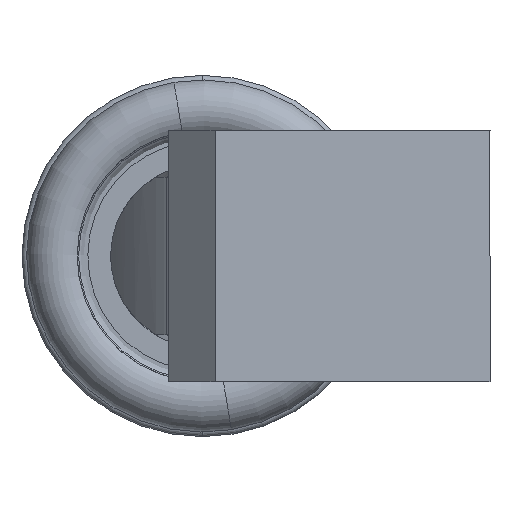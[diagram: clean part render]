
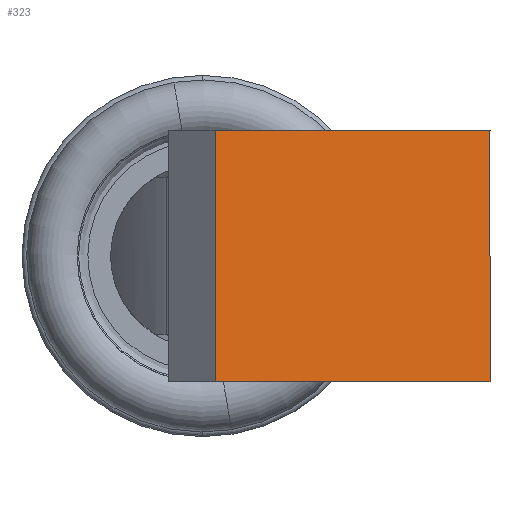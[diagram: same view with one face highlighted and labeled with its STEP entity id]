
A CAD part, left-side view. The second image highlights one B-rep face of the part: STEP entity #323.
In plain terms, the highlighted planar face has unit normal (-0.998, -0.07, 0).
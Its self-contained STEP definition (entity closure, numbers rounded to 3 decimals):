
#48 = CARTESIAN_POINT ( 'NONE',  ( -123.922, -8.666, -12.5 ) ) ;
#54 = DIRECTION ( 'NONE',  ( 0., 0., 1. ) ) ;
#140 = VERTEX_POINT ( 'NONE', #689 ) ;
#152 = VECTOR ( 'NONE', #54, 1000. ) ;
#164 = VERTEX_POINT ( 'NONE', #2378 ) ;
#285 = DIRECTION ( 'NONE',  ( 0., 0., 1. ) ) ;
#323 = ADVANCED_FACE ( 'NONE', ( #957 ), #1706, .F. ) ;
#394 = VERTEX_POINT ( 'NONE', #1536 ) ;
#625 = LINE ( 'NONE', #3076, #152 ) ;
#689 = CARTESIAN_POINT ( 'NONE',  ( -123.872, -9.384, 4.1 ) ) ;
#701 = AXIS2_PLACEMENT_3D ( 'NONE', #48, #2235, #1967 ) ;
#734 = VECTOR ( 'NONE', #2568, 1000. ) ;
#808 = LINE ( 'NONE', #2373, #734 ) ;
#957 = FACE_OUTER_BOUND ( 'NONE', #1569, .T. ) ;
#970 = DIRECTION ( 'NONE',  ( -0.07, 0.998, 0. ) ) ;
#1050 = ORIENTED_EDGE ( 'NONE', *, *, #1911, .T. ) ;
#1174 = EDGE_CURVE ( 'NONE', #164, #394, #2892, .T. ) ;
#1212 = CARTESIAN_POINT ( 'NONE',  ( -123.922, -8.666, -4.1 ) ) ;
#1227 = ORIENTED_EDGE ( 'NONE', *, *, #2662, .F. ) ;
#1384 = ORIENTED_EDGE ( 'NONE', *, *, #2990, .T. ) ;
#1536 = CARTESIAN_POINT ( 'NONE',  ( -124.5, -0.406, -4.1 ) ) ;
#1569 = EDGE_LOOP ( 'NONE', ( #2608, #1384, #1050, #1227 ) ) ;
#1706 = PLANE ( 'NONE',  #701 ) ;
#1843 = VECTOR ( 'NONE', #970, 1000. ) ;
#1855 = VERTEX_POINT ( 'NONE', #3043 ) ;
#1911 = EDGE_CURVE ( 'NONE', #140, #1855, #808, .T. ) ;
#1967 = DIRECTION ( 'NONE',  ( -0.07, 0.998, 0. ) ) ;
#1988 = CARTESIAN_POINT ( 'NONE',  ( -123.872, -9.384, -12.5 ) ) ;
#2117 = LINE ( 'NONE', #1988, #2302 ) ;
#2235 = DIRECTION ( 'NONE',  ( 0.998, 0.07, 0. ) ) ;
#2302 = VECTOR ( 'NONE', #285, 1000. ) ;
#2373 = CARTESIAN_POINT ( 'NONE',  ( -123.922, -8.666, 4.1 ) ) ;
#2378 = CARTESIAN_POINT ( 'NONE',  ( -123.872, -9.384, -4.1 ) ) ;
#2568 = DIRECTION ( 'NONE',  ( -0.07, 0.998, 0. ) ) ;
#2608 = ORIENTED_EDGE ( 'NONE', *, *, #1174, .F. ) ;
#2662 = EDGE_CURVE ( 'NONE', #394, #1855, #625, .T. ) ;
#2892 = LINE ( 'NONE', #1212, #1843 ) ;
#2990 = EDGE_CURVE ( 'NONE', #164, #140, #2117, .T. ) ;
#3043 = CARTESIAN_POINT ( 'NONE',  ( -124.5, -0.406, 4.1 ) ) ;
#3076 = CARTESIAN_POINT ( 'NONE',  ( -124.5, -0.406, -12.5 ) ) ;
